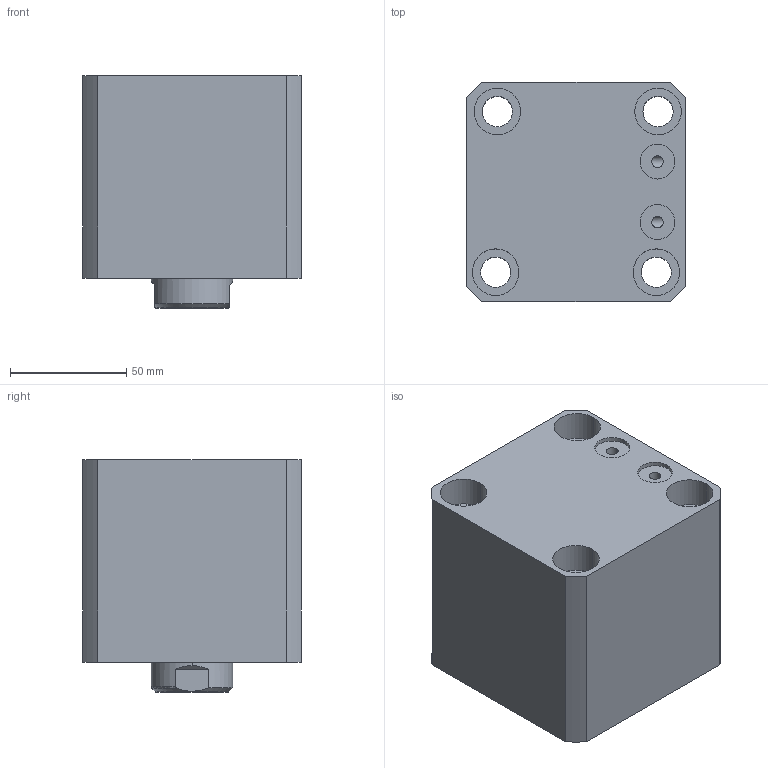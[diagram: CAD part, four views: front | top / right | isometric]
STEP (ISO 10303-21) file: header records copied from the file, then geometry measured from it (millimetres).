
FILE_DESCRIPTION (( 'STEP AP214' ), '1' );
FILE_NAME ('chtb-sdmb63x20n_asm.STEP', '2018-05-16T06:48:20', ( 'Windows' ), ( 'Microsoft' ), 'SwSTEP 2.0', 'SolidWorks 2015', '' );
FILE_SCHEMA (( 'AUTOMOTIVE_DESIGN' ));
Length unit declared in the file: millimetre
Products named in the file (4): CHTB-SDMB63X20NBT; CHTB63X20NHSG; CHTB-63QG; chtb-sdmb63x20n_asm
Assembly tree (3 placements, depth 2):
  chtb-sdmb63x20n_asm
    CHTB-63QG
    CHTB63X20NHSG
    CHTB-SDMB63X20NBT
Bounding box: 94 x 94 x 100 mm (x, y, z)
Volume: 654362.9 mm3; surface area: 119681.8 mm2
Topology: 3 solids, 3 shells, 164 faces, 468 edges, 318 vertices
Faces by surface type: cylinder 107, plane 30, bspline 12, cone 8, torus 7
Entity records: 17708 total; most frequent: CARTESIAN_POINT 13594, ORIENTED_EDGE 924, DIRECTION 707, EDGE_CURVE 462, VERTEX_POINT 318, AXIS2_PLACEMENT_3D 284, EDGE_LOOP 196, ADVANCED_FACE 164
